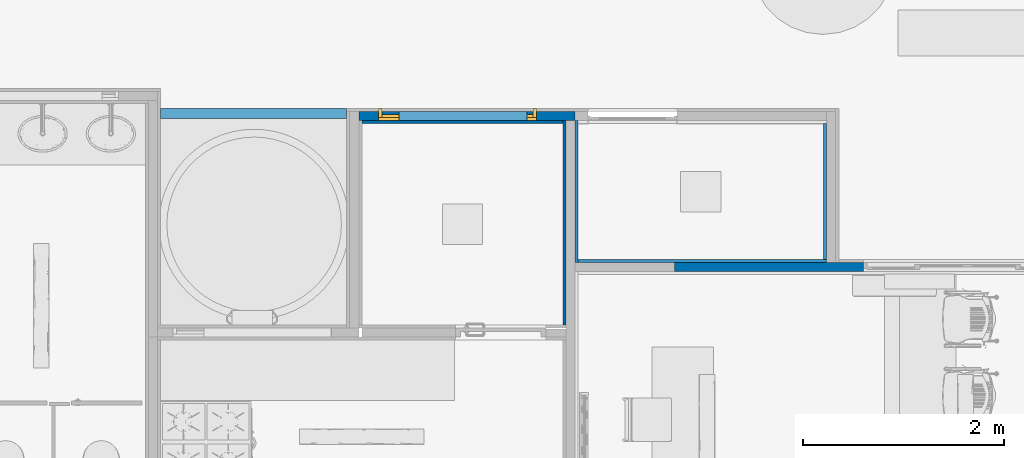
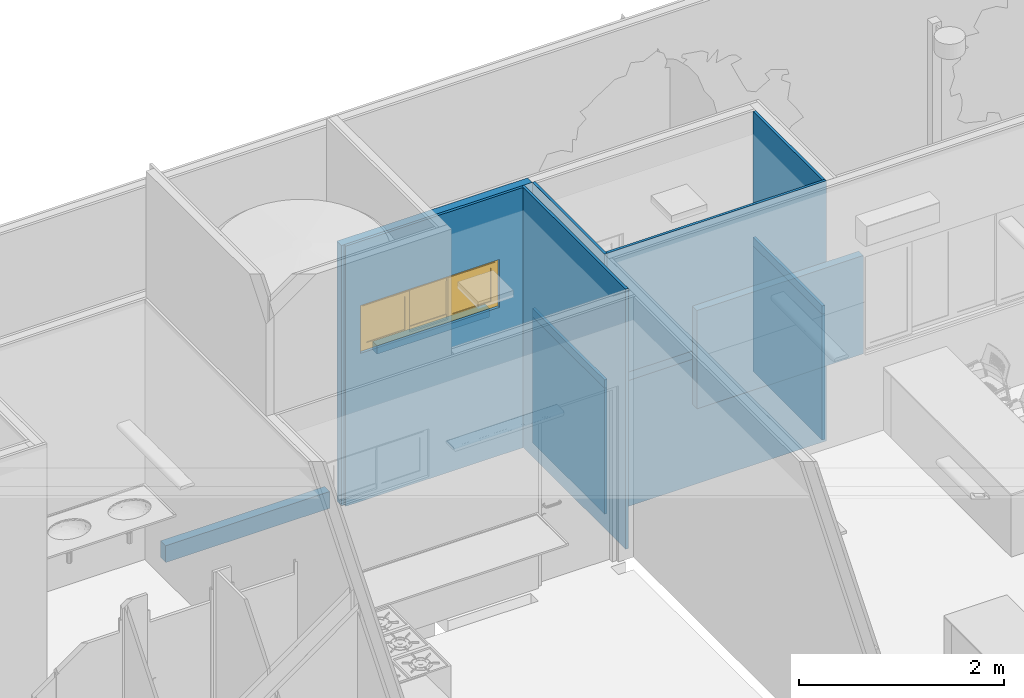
# One storey, part 42 of 155: 15 walls, 1 window, 9 openings.
"""IFC2X3 building model written with IfcOpenShell, lengths in metres."""

from ifc_helpers import new_model, entity, si_unit, converted_unit, derived_unit, direction, frame, frame_2d, origin, origin_2d_with_axis, place, context, subcontext, project, spatial, polyline, rectangle, outline, extrude, clip, bounded_halfspace, source, transform, mapped, material, material_list, layer, layer_set, layer_usage, type_object, type_shapes, element, fill, save


model = new_model("IFC2X3")

# Units and contexts
model_context = context("Model", 3, precision=1e-05, world=origin(), true_north=direction((6.12303176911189e-17, 1.0)))
body_context = subcontext(model_context, "Body", "Model", "MODEL_VIEW")
ifc_project = project(units=[si_unit("LENGTHUNIT", "METRE"), si_unit("AREAUNIT", "SQUARE_METRE"), si_unit("VOLUMEUNIT", "CUBIC_METRE"), converted_unit("PLANEANGLEUNIT", "DEGREE", entity("IfcRatioMeasure", 0.0174532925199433), si_unit("PLANEANGLEUNIT", "RADIAN"), dimensions=[0, 0, 0, 0, 0, 0, 0]), si_unit("MASSUNIT", "GRAM", prefix="KILO"), derived_unit("MASSDENSITYUNIT", [(si_unit("MASSUNIT", "GRAM", prefix="KILO"), 1), (si_unit("LENGTHUNIT", "METRE"), -3)]), si_unit("TIMEUNIT", "SECOND"), si_unit("FREQUENCYUNIT", "HERTZ"), si_unit("THERMODYNAMICTEMPERATUREUNIT", "DEGREE_CELSIUS"), derived_unit("THERMALTRANSMITTANCEUNIT", [(si_unit("MASSUNIT", "GRAM", prefix="KILO"), 1), (si_unit("THERMODYNAMICTEMPERATUREUNIT", "KELVIN"), -1), (si_unit("TIMEUNIT", "SECOND"), -3)]), derived_unit("VOLUMETRICFLOWRATEUNIT", [(si_unit("LENGTHUNIT", "METRE"), 3), (si_unit("TIMEUNIT", "SECOND"), -1)]), si_unit("ELECTRICCURRENTUNIT", "AMPERE"), si_unit("ELECTRICVOLTAGEUNIT", "VOLT"), si_unit("POWERUNIT", "WATT"), si_unit("FORCEUNIT", "NEWTON", prefix="KILO"), si_unit("ILLUMINANCEUNIT", "LUX"), si_unit("LUMINOUSFLUXUNIT", "LUMEN"), si_unit("LUMINOUSINTENSITYUNIT", "CANDELA"), derived_unit("USERDEFINED", [(si_unit("MASSUNIT", "GRAM", prefix="KILO"), -1), (si_unit("LENGTHUNIT", "METRE"), -2), (si_unit("TIMEUNIT", "SECOND"), 3), (si_unit("LUMINOUSFLUXUNIT", "LUMEN"), 1)]), derived_unit("LINEARVELOCITYUNIT", [(si_unit("LENGTHUNIT", "METRE"), 1), (si_unit("TIMEUNIT", "SECOND"), -1)]), si_unit("PRESSUREUNIT", "PASCAL"), derived_unit("USERDEFINED", [(si_unit("LENGTHUNIT", "METRE"), -2), (si_unit("MASSUNIT", "GRAM", prefix="KILO"), 1), (si_unit("TIMEUNIT", "SECOND"), -2)])], contexts=[model_context])

# Site, building, storey
site_placement = place(None, frame((26.9889013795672, -17.5624287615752, 0.0)))
site = spatial("IfcSite", under=ifc_project, at=site_placement, Name="Default", CompositionType="ELEMENT")
building_placement = place(site_placement, origin())
building = spatial("IfcBuilding", under=site, at=building_placement, Name="C. C. L. Monsenhor Antônio Sampaio", CompositionType="ELEMENT")
storey_placement = place(building_placement, frame((0.0, 0.0, 1.19999999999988)))
storey = spatial("IfcBuildingStorey", under=building, at=storey_placement, Name="Nível 1.2", CompositionType="ELEMENT", Elevation=1.19999999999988)

# Wall, openings, window
ifc_material_1 = material(Name="ALVENARIA")
ifc_layer_1 = layer(ifc_material_1, 0.09)
ifc_layer_set_1 = layer_set([ifc_layer_1], Name="Parede básica:ENucleo parede 15cm")
ifc_layer_usage_1 = layer_usage(ifc_layer_set_1, "AXIS2", "POSITIVE", -0.045)
wall_type_1 = type_object("IfcWallType", Name="Parede básica:ENucleo parede 15cm", PredefinedType="STANDARD", material=ifc_layer_set_1)
wall_1_placement = place(storey_placement, frame((1.69944770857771, -8.72806634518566, 0.0)))
wall_1 = element("IfcWallStandardCase", 1, at=wall_1_placement, inside=storey, type_object=wall_type_1, material=ifc_layer_usage_1, Name="Parede básica:ENucleo parede 15cm", ObjectType="Parede básica:ENucleo parede 15cm", context=body_context, shape_type="Clipping", body=[
    clip(extrude(rectangle(XDim=2.14999999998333, YDim=0.089999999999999, at=frame_2d((1.07499999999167, 0.0), x_axis=(-1.0, 0.0))), origin(), (0.0, 0.0, 1.0), 3.10000000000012), bounded_halfspace(frame((2.14999999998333, -0.0450000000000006, 3.10000000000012), z_axis=(-1.0, 0.0, 0.0), x_axis=(0.0, -1.0, 0.0)), True, frame((2.14999999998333, -0.0450000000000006, 3.10000000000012), z_axis=(-1.0, 0.0, 0.0), x_axis=(0.0, -1.0, 0.0)), polyline([(0.0, 0.0), (-0.0900000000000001, 0.0), (-0.0900000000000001, -3.10000000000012), (0.0, -3.10000000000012), (0.0, 0.0)]))),
])
opening_1_placement = place(wall_1_placement, frame((0.195000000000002, -0.0450000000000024, 1.76500000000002)))
opening_1 = element("IfcOpeningElement", 2, at=opening_1_placement, cuts=wall_1, Name="Janela 150x1:150 x 50:1", ObjectType="Opening", context=body_context, shape_type="SweptSolid", body=[
    extrude(rectangle(XDim=0.570000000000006, YDim=1.56999999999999, at=frame_2d((0.285000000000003, 0.784999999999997), x_axis=(1.0, 0.0))), frame((0.0, 0.0, 0.0), z_axis=(0.0, 1.0, 0.0), x_axis=(0.0, 0.0, 1.0)), (0.0, 0.0, 1.0), 0.09),
])
opening_2_placement = place(wall_1_placement, frame((-1.69944770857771, 8.72806634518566, 0.0)))
element("IfcOpeningElement", 3, at=opening_2_placement, cuts=wall_1, Name="Parede básica:ENucleo parede 15cm", ObjectType="Opening", context=body_context, shape_type="SweptSolid", body=[
    extrude(rectangle(XDim=0.47000000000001, YDim=1.26999999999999, at=frame_2d((0.0, 2.77555756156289e-16), x_axis=(1.0, 0.0))), frame((2.7344477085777, -10.2970663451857, 1.90000000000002), z_axis=(0.0, 1.0, 0.0), x_axis=(0.0, 0.0, 1.0)), (0.0, 0.0, 1.0), 3.048),
])
ifc_material_2 = material(Name="VIDRO COMUM LISO VERDE")
ifc_material_3 = material(Name="ALUMÍNIO COM PINTURA ELETROSTÁTICA BRANCA")
ifc_material_list_1 = material_list([ifc_material_2, ifc_material_3])
ifc_material_list_2 = material_list([ifc_material_2, ifc_material_3])
window_style = type_object("IfcWindowStyle", Name="150 x 50", ConstructionType="NOTDEFINED", OperationType="NOTDEFINED", ParameterTakesPrecedence=False, Sizeable=False, material=ifc_material_list_2)
shared_shape = source(origin(), body_context, "Body", "SweptSolid", [
    extrude(rectangle(XDim=0.00599999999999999, YDim=0.43333, at=frame_2d((0.0, -2.77555756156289e-17), x_axis=(1.0, 0.0))), frame((1.00958205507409, 0.00574832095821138, 0.0849999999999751), z_axis=(0.0, 0.0, 1.0), x_axis=(0.0, -1.0, 0.0)), (0.0, 0.0, 1.0), 0.4),
    extrude(outline(polyline([(-0.250000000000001, -0.266665), (0.250000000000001, -0.266665), (0.250000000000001, 0.266665), (-0.250000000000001, 0.266665), (-0.250000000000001, -0.266665)]), holes=[polyline([(-0.200000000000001, -0.216665), (-0.200000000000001, 0.216665), (0.200000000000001, 0.216665), (0.200000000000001, -0.216665), (-0.200000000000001, -0.216665)])]), frame((1.00958205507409, 0.0182483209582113, 0.284999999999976), z_axis=(0.0, -1.0, 0.0), x_axis=(0.0, 0.0, -1.0)), (0.0, 0.0, 1.0), 0.025),
    extrude(rectangle(XDim=0.43333, YDim=0.00599999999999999, at=origin_2d_with_axis()), frame((0.526192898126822, 0.0307483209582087, 0.0849999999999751), z_axis=(0.0, 0.0, 1.0), x_axis=(-1.0, 0.0, 0.0)), (0.0, 0.0, 1.0), 0.4),
    extrude(outline(polyline([(-0.266665, -0.250000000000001), (0.266665, -0.250000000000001), (0.266665, 0.250000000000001), (-0.266665, 0.250000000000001), (-0.266665, -0.250000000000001)]), holes=[polyline([(-0.216665, -0.200000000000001), (-0.216665, 0.200000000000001), (0.216665, 0.200000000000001), (0.216665, -0.200000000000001), (-0.216665, -0.200000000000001)])]), frame((0.526192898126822, 0.0432483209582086, 0.284999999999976), z_axis=(0.0, -1.0, 0.0), x_axis=(-1.0, 0.0, 0.0)), (0.0, 0.0, 1.0), 0.025),
    extrude(rectangle(XDim=0.43333, YDim=0.00599999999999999, at=frame_2d((-2.77555756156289e-17, 0.0), x_axis=(1.0, 0.0))), frame((0.0428037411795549, 0.00574832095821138, 0.0849999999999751), z_axis=(0.0, 0.0, 1.0), x_axis=(-1.0, 0.0, 0.0)), (0.0, 0.0, 1.0), 0.4),
    extrude(outline(polyline([(-0.266665, -0.250000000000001), (0.266665, -0.250000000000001), (0.266665, 0.250000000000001), (-0.266665, 0.250000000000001), (-0.266665, -0.250000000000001)]), holes=[polyline([(-0.216665, -0.200000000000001), (-0.216665, 0.200000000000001), (0.216665, 0.200000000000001), (0.216665, -0.200000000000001), (-0.216665, -0.200000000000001)])]), frame((0.0428037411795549, 0.0182483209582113, 0.284999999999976), z_axis=(0.0, -1.0, 0.0), x_axis=(-1.0, 0.0, 0.0)), (0.0, 0.0, 1.0), 0.025),
    extrude(rectangle(XDim=0.0349999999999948, YDim=0.12, at=origin_2d_with_axis()), frame((-0.241307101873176, 0.0582483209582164, 0.0349999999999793), z_axis=(0.0, 0.0, 1.0), x_axis=(-1.0, 0.0, 0.0)), (0.0, 0.0, 1.0), 0.500000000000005),
    extrude(rectangle(XDim=0.0349999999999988, YDim=0.12, at=origin_2d_with_axis()), frame((1.29369289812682, 0.0582483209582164, 0.0349999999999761), z_axis=(0.0, 0.0, 1.0), x_axis=(-1.0, 0.0, 0.0)), (0.0, 0.0, 1.0), 0.500000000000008),
    extrude(rectangle(XDim=1.57, YDim=0.06, at=origin_2d_with_axis()), frame((0.526192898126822, 0.0282483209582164, 0.0), z_axis=(0.0, 0.0, 1.0), x_axis=(-1.0, 0.0, 0.0)), (0.0, 0.0, 1.0), 0.0349999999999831),
    extrude(rectangle(XDim=1.56999999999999, YDim=0.03, at=origin_2d_with_axis()), frame((0.526192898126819, 0.0132483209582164, 0.534999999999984), z_axis=(0.0, 0.0, 1.0), x_axis=(-1.0, 0.0, 0.0)), (0.0, 0.0, 1.0), 0.0350000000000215),
])
type_shapes(window_style, [shared_shape])
window_placement = place(opening_1_placement, frame((0.258807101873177, 0.00175167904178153, 0.0)))
window = element("IfcWindow", 4, at=window_placement, inside=storey, type_object=window_style, material=ifc_material_list_1, Name="Janela 150x1:150 x 50", ObjectType="150 x 50", OverallHeight=0.570000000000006, OverallWidth=1.56999999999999, context=body_context, shape_type="MappedRepresentation", body=[
    mapped(shared_shape, transform((0.0, 0.0, 0.0), scale=1.0)),
])
fill(opening_1, window)

# Walls
ifc_layer_usage_2 = layer_usage(ifc_layer_set_1, "AXIS2", "POSITIVE", -0.045)
wall_2_placement = place(storey_placement, frame((4.83944770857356, -10.2280663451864, 0.965000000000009)))
element("IfcWallStandardCase", 5, at=wall_2_placement, inside=storey, type_object=wall_type_1, material=ifc_layer_usage_2, Name="Parede básica:ENucleo parede 15cm", ObjectType="Parede básica:ENucleo parede 15cm", context=body_context, shape_type="SweptSolid", body=[
    extrude(rectangle(XDim=1.87516826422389, YDim=0.089999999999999, at=origin_2d_with_axis()), frame((0.937584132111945, 0.0, 0.0)), (0.0, 0.0, 1.0), 1.17000000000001),
])
ifc_layer_usage_3 = layer_usage(ifc_layer_set_1, "AXIS2", "POSITIVE", -0.045)
wall_3_placement = place(storey_placement, frame((2.09944770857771, -8.72806634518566, 1.66500000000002)))
element("IfcWallStandardCase", 6, at=wall_3_placement, inside=storey, type_object=wall_type_1, material=ifc_layer_usage_3, Name="Parede básica:ENucleo parede 15cm", ObjectType="Parede básica:ENucleo parede 15cm", context=body_context, shape_type="SweptSolid", body=[
    extrude(rectangle(XDim=1.26999999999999, YDim=0.0900000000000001, at=frame_2d((1.11022302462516e-16, 5.41233724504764e-16), x_axis=(1.0, 0.0))), frame((0.634999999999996, 0.0, 0.0)), (0.0, 0.0, 1.0), 0.1),
])
ifc_material_4 = material(Name=".CERÂMICA 10x10 BRANCA")
ifc_layer_2 = layer(ifc_material_4, 0.0035)
ifc_material_5 = material(Name="Argamassa Colante")
ifc_layer_3 = layer(ifc_material_5, 0.02)
ifc_material_6 = material(Name="4")
ifc_layer_4 = layer(ifc_material_6, 0.0015)
ifc_material_7 = material(Name="3")
ifc_layer_5 = layer(ifc_material_7, 0.005)
ifc_layer_set_2 = layer_set([ifc_layer_2, ifc_layer_3, ifc_layer_4, ifc_layer_5], Name="Parede básica:ECeramica branca 10x10cm")
ifc_layer_usage_4 = layer_usage(ifc_layer_set_2, "AXIS2", "NEGATIVE", 0.015)
wall_type_2 = type_object("IfcWallType", Name="Parede básica:ECeramica branca 10x10cm", PredefinedType="STANDARD", material=ifc_layer_set_2)
wall_4_placement = place(storey_placement, frame((3.86461597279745, -10.1830663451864, 0.0), z_axis=(0.0, 0.0, 1.0), x_axis=(0.0, 1.0, 0.0)))
element("IfcWallStandardCase", 7, at=wall_4_placement, inside=storey, type_object=wall_type_2, material=ifc_layer_usage_4, Name="Parede básica:ECeramica branca 10x10cm", ObjectType="Parede básica:ECeramica branca 10x10cm", context=body_context, shape_type="SweptSolid", body=[
    extrude(rectangle(XDim=1.41000000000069, YDim=0.0299999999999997, at=frame_2d((0.705000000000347, -6.41847686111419e-17), x_axis=(-1.0, 0.0))), origin(), (0.0, 0.0, 1.0), 1.5),
])
ifc_layer_usage_5 = layer_usage(ifc_layer_set_2, "AXIS2", "NEGATIVE", 0.015)
wall_5_placement = place(storey_placement, frame((3.86461597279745, -10.1830663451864, 1.6), z_axis=(0.0, 0.0, 1.0), x_axis=(0.0, 1.0, 0.0)))
element("IfcWallStandardCase", 8, at=wall_5_placement, inside=storey, type_object=wall_type_2, material=ifc_layer_usage_5, Name="Parede básica:ECeramica branca 10x10cm", ObjectType="Parede básica:ECeramica branca 10x10cm", context=body_context, shape_type="SweptSolid", body=[
    extrude(rectangle(XDim=1.41000000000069, YDim=0.0299999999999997, at=frame_2d((0.705000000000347, -6.41847686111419e-17), x_axis=(-1.0, 0.0))), origin(), (0.0, 0.0, 1.0), 1.50000000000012),
])

# Wall, openings
ifc_layer_usage_6 = layer_usage(ifc_layer_set_2, "AXIS2", "NEGATIVE", 0.015)
wall_6_placement = place(storey_placement, frame((6.34944770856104, -10.1680663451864, 0.0), z_axis=(0.0, 0.0, 1.0), x_axis=(-1.0, 0.0, 0.0)))
wall_6 = element("IfcWallStandardCase", 9, at=wall_6_placement, inside=storey, type_object=wall_type_2, material=ifc_layer_usage_6, Name="Parede básica:ECeramica branca 10x10cm", ObjectType="Parede básica:ECeramica branca 10x10cm", context=body_context, shape_type="SweptSolid", body=[
    extrude(rectangle(XDim=2.46983173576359, YDim=0.0300000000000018, at=frame_2d((1.23491586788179, -1.71737624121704e-16), x_axis=(-1.0, 0.0))), origin(), (0.0, 0.0, 1.0), 1.5),
])
opening_3_placement = place(wall_6_placement, origin())
element("IfcOpeningElement", 10, at=opening_3_placement, cuts=wall_6, Name="Parede básica:ECeramica branca 10x10cm", ObjectType="Opening", context=body_context, shape_type="SweptSolid", body=[
    extrude(rectangle(XDim=1.17, YDim=2.07, at=frame_2d((0.0, 5.55111512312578e-16), x_axis=(1.0, 0.0))), frame((-1.40016826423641, -1.50899999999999, 1.55000000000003), z_axis=(0.0, 1.0, 0.0), x_axis=(0.0, 0.0, 1.0)), (0.0, 0.0, 1.0), 3.048),
])
opening_4_placement = place(wall_6_placement, origin())
element("IfcOpeningElement", 11, at=opening_4_placement, cuts=wall_6, Name="Parede básica:ECeramica branca 10x10cm", ObjectType="Opening", context=body_context, shape_type="SweptSolid", body=[
    extrude(rectangle(XDim=1.17, YDim=2.07, at=frame_2d((-5.55111512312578e-16, 0.0), x_axis=(0.0, 1.0))), frame((-3.89000000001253, -1.41899999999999, 1.55000000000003), z_axis=(0.0, 1.0, 0.0), x_axis=(-1.0, 0.0, 0.0)), (0.0, 0.0, 1.0), 3.048),
])

ifc_layer_usage_7 = layer_usage(ifc_layer_set_2, "AXIS2", "NEGATIVE", 0.015)
wall_7_placement = place(storey_placement, frame((6.34944770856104, -10.1680663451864, 1.6), z_axis=(0.0, 0.0, 1.0), x_axis=(-1.0, 0.0, 0.0)))
wall_7 = element("IfcWallStandardCase", 12, at=wall_7_placement, inside=storey, type_object=wall_type_2, material=ifc_layer_usage_7, Name="Parede básica:ECeramica branca 10x10cm", ObjectType="Parede básica:ECeramica branca 10x10cm", context=body_context, shape_type="SweptSolid", body=[
    extrude(rectangle(XDim=2.46983173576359, YDim=0.0300000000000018, at=frame_2d((1.23491586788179, -1.71737624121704e-16), x_axis=(-1.0, 0.0))), origin(), (0.0, 0.0, 1.0), 1.50000000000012),
])
opening_5_placement = place(wall_7_placement, origin())
element("IfcOpeningElement", 13, at=opening_5_placement, cuts=wall_7, Name="Parede básica:ECeramica branca 10x10cm", ObjectType="Opening", context=body_context, shape_type="SweptSolid", body=[
    extrude(rectangle(XDim=1.17, YDim=2.07, at=frame_2d((0.0, 5.55111512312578e-16), x_axis=(1.0, 0.0))), frame((-1.40016826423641, -1.50899999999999, -0.049999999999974), z_axis=(0.0, 1.0, 0.0), x_axis=(0.0, 0.0, 1.0)), (0.0, 0.0, 1.0), 3.048),
])
opening_6_placement = place(wall_7_placement, origin())
element("IfcOpeningElement", 14, at=opening_6_placement, cuts=wall_7, Name="Parede básica:ECeramica branca 10x10cm", ObjectType="Opening", context=body_context, shape_type="SweptSolid", body=[
    extrude(rectangle(XDim=1.17, YDim=2.07, at=frame_2d((-5.55111512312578e-16, 0.0), x_axis=(0.0, 1.0))), frame((-3.89000000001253, -1.41899999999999, -0.049999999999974), z_axis=(0.0, 1.0, 0.0), x_axis=(-1.0, 0.0, 0.0)), (0.0, 0.0, 1.0), 3.048),
])

# Walls
ifc_layer_usage_8 = layer_usage(ifc_layer_set_2, "AXIS2", "POSITIVE", -0.015)
wall_8_placement = place(storey_placement, frame((6.33444770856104, -8.80306634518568, 0.0), z_axis=(0.0, 0.0, 1.0), x_axis=(0.0, -1.0, 0.0)))
element("IfcWallStandardCase", 15, at=wall_8_placement, inside=storey, type_object=wall_type_2, material=ifc_layer_usage_8, Name="Parede básica:ECeramica branca 10x10cm", ObjectType="Parede básica:ECeramica branca 10x10cm", context=body_context, shape_type="SweptSolid", body=[
    extrude(rectangle(XDim=1.35000000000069, YDim=0.0299999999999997, at=frame_2d((0.675000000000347, 0.0), x_axis=(-1.0, 0.0))), origin(), (0.0, 0.0, 1.0), 1.5),
])
ifc_layer_usage_9 = layer_usage(ifc_layer_set_2, "AXIS2", "POSITIVE", -0.015)
wall_9_placement = place(storey_placement, frame((6.33444770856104, -8.80306634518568, 1.6), z_axis=(0.0, 0.0, 1.0), x_axis=(0.0, -1.0, 0.0)))
element("IfcWallStandardCase", 16, at=wall_9_placement, inside=storey, type_object=wall_type_2, material=ifc_layer_usage_9, Name="Parede básica:ECeramica branca 10x10cm", ObjectType="Parede básica:ECeramica branca 10x10cm", context=body_context, shape_type="SweptSolid", body=[
    extrude(rectangle(XDim=1.35000000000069, YDim=0.0299999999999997, at=frame_2d((0.675000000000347, 0.0), x_axis=(-1.0, 0.0))), origin(), (0.0, 0.0, 1.0), 1.50000000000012),
])
ifc_material_8 = material(Name="Acabamento Branco")
ifc_layer_6 = layer(ifc_material_8, 0.0035)
ifc_material_9 = material(Name="Massa corrida")
ifc_layer_7 = layer(ifc_material_9, 0.02)
ifc_layer_8 = layer(ifc_material_6, 0.0015)
ifc_layer_9 = layer(ifc_material_7, 0.005)
ifc_layer_set_3 = layer_set([ifc_layer_6, ifc_layer_7, ifc_layer_8, ifc_layer_9], Name="Parede básica:EPintura Branca")
ifc_layer_usage_10 = layer_usage(ifc_layer_set_3, "AXIS2", "NEGATIVE", 0.015)
wall_type_3 = type_object("IfcWallType", Name="Parede básica:EPintura Branca", PredefinedType="STANDARD", material=ifc_layer_set_3)
wall_10_placement = place(storey_placement, frame((3.74461597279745, -10.8030663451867, 0.0), z_axis=(0.0, 0.0, 1.0), x_axis=(0.0, 1.0, 0.0)))
element("IfcWallStandardCase", 17, at=wall_10_placement, inside=storey, type_object=wall_type_3, material=ifc_layer_usage_10, Name="Parede básica:EPintura Branca", ObjectType="Parede básica:EPintura Branca", context=body_context, shape_type="SweptSolid", body=[
    extrude(rectangle(XDim=2.03000000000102, YDim=0.0299999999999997, at=frame_2d((1.01500000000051, 0.0), x_axis=(-1.0, 0.0))), origin(), (0.0, 0.0, 1.0), 3.10000000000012),
])

# Wall, opening
ifc_layer_usage_11 = layer_usage(ifc_layer_set_3, "AXIS2", "NEGATIVE", 0.015)
wall_11_placement = place(storey_placement, frame((3.72961597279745, -8.78806634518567, 0.0), z_axis=(0.0, 0.0, 1.0), x_axis=(-1.0, 0.0, 0.0)))
wall_11 = element("IfcWallStandardCase", 18, at=wall_11_placement, inside=storey, type_object=wall_type_3, material=ifc_layer_usage_11, Name="Parede básica:EPintura Branca", ObjectType="Parede básica:EPintura Branca", context=body_context, shape_type="SweptSolid", body=[
    extrude(rectangle(XDim=2.00016826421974, YDim=0.0299999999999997, at=frame_2d((1.00008413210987, 0.0), x_axis=(-1.0, 0.0))), origin(), (0.0, 0.0, 1.0), 3.10000000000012),
])
opening_7_placement = place(wall_11_placement, origin())
element("IfcOpeningElement", 19, at=opening_7_placement, cuts=wall_11, Name="Parede básica:EPintura Branca", ObjectType="Opening", context=body_context, shape_type="SweptSolid", body=[
    extrude(rectangle(XDim=0.570000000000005, YDim=1.56999999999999, at=frame_2d((5.27355936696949e-16, 1.11022302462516e-16), x_axis=(1.0, 0.0))), frame((1.05016826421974, -1.539, 2.05000000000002), z_axis=(0.0, 1.0, 0.0), x_axis=(0.0, 0.0, 1.0)), (0.0, 0.0, 1.0), 3.048),
])

# Walls
ifc_material_10 = material(Name=".Pintura branca")
ifc_layer_10 = layer(ifc_material_10, 0.005)
ifc_material_11 = material(Name=".Alvenaria")
ifc_layer_11 = layer(ifc_material_11, 0.09)
ifc_layer_12 = layer(ifc_material_10, 0.005)
ifc_layer_set_4 = layer_set([ifc_layer_10, ifc_layer_11, ifc_layer_12], Name="Parede básica:10cm - Canteiros")
ifc_layer_usage_12 = layer_usage(ifc_layer_set_4, "AXIS2", "POSITIVE", -0.05)
wall_type_4 = type_object("IfcWallType", Name="Parede básica:10cm - Canteiros", PredefinedType="STANDARD", material=ifc_layer_set_4)
wall_12_placement = place(storey_placement, frame((1.57944770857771, -8.70306634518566, 0.0), z_axis=(0.0, 0.0, 1.0), x_axis=(-1.0, 0.0, 0.0)))
element("IfcWallStandardCase", 20, at=wall_12_placement, inside=storey, type_object=wall_type_4, material=ifc_layer_usage_12, Name="Parede básica:10cm - Canteiros", ObjectType="Parede básica:10cm - Canteiros", context=body_context, shape_type="SweptSolid", body=[
    extrude(rectangle(XDim=1.85000000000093, YDim=0.0999999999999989, at=frame_2d((0.925000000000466, 0.0), x_axis=(-1.0, 0.0))), origin(), (0.0, 0.0, 1.0), 0.2),
])
ifc_material_12 = material(Name=".CERÂMICA 10x10 VERDE")
ifc_layer_13 = layer(ifc_material_12, 0.0035)
ifc_layer_14 = layer(ifc_material_5, 0.02)
ifc_layer_15 = layer(ifc_material_6, 0.0015)
ifc_layer_16 = layer(ifc_material_7, 0.005)
ifc_layer_set_5 = layer_set([ifc_layer_13, ifc_layer_14, ifc_layer_15, ifc_layer_16], Name="Parede básica:ECeramica Verde 10x10cm")
ifc_layer_usage_13 = layer_usage(ifc_layer_set_5, "AXIS2", "NEGATIVE", 0.015)
wall_type_5 = type_object("IfcWallType", Name="Parede básica:ECeramica Verde 10x10cm", PredefinedType="STANDARD", material=ifc_layer_set_5)
wall_13_placement = place(storey_placement, frame((3.86461597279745, -10.1830663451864, 1.5), z_axis=(0.0, 0.0, 1.0), x_axis=(0.0, 1.0, 0.0)))
element("IfcWallStandardCase", 21, at=wall_13_placement, inside=storey, type_object=wall_type_5, material=ifc_layer_usage_13, Name="Parede básica:ECeramica Verde 10x10cm", ObjectType="Parede básica:ECeramica Verde 10x10cm", context=body_context, shape_type="SweptSolid", body=[
    extrude(rectangle(XDim=1.41000000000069, YDim=0.0299999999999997, at=frame_2d((0.705000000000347, -6.41847686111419e-17), x_axis=(-1.0, 0.0))), origin(), (0.0, 0.0, 1.0), 0.1),
])

# Wall, openings
ifc_layer_usage_14 = layer_usage(ifc_layer_set_5, "AXIS2", "NEGATIVE", 0.015)
wall_14_placement = place(storey_placement, frame((6.34944770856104, -10.1680663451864, 1.5), z_axis=(0.0, 0.0, 1.0), x_axis=(-1.0, 0.0, 0.0)))
wall_14 = element("IfcWallStandardCase", 22, at=wall_14_placement, inside=storey, type_object=wall_type_5, material=ifc_layer_usage_14, Name="Parede básica:ECeramica Verde 10x10cm", ObjectType="Parede básica:ECeramica Verde 10x10cm", context=body_context, shape_type="SweptSolid", body=[
    extrude(rectangle(XDim=2.46983173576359, YDim=0.0300000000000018, at=frame_2d((1.23491586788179, -1.71737624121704e-16), x_axis=(-1.0, 0.0))), origin(), (0.0, 0.0, 1.0), 0.1),
])
opening_8_placement = place(wall_14_placement, origin())
element("IfcOpeningElement", 23, at=opening_8_placement, cuts=wall_14, Name="Parede básica:ECeramica Verde 10x10cm", ObjectType="Opening", context=body_context, shape_type="SweptSolid", body=[
    extrude(rectangle(XDim=1.17, YDim=2.07, at=frame_2d((0.0, 5.55111512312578e-16), x_axis=(1.0, 0.0))), frame((-1.40016826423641, -1.50899999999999, 0.050000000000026), z_axis=(0.0, 1.0, 0.0), x_axis=(0.0, 0.0, 1.0)), (0.0, 0.0, 1.0), 3.048),
])
opening_9_placement = place(wall_14_placement, origin())
element("IfcOpeningElement", 24, at=opening_9_placement, cuts=wall_14, Name="Parede básica:ECeramica Verde 10x10cm", ObjectType="Opening", context=body_context, shape_type="SweptSolid", body=[
    extrude(rectangle(XDim=1.17, YDim=2.07, at=frame_2d((-5.55111512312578e-16, 0.0), x_axis=(0.0, 1.0))), frame((-3.89000000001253, -1.41899999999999, 0.050000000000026), z_axis=(0.0, 1.0, 0.0), x_axis=(-1.0, 0.0, 0.0)), (0.0, 0.0, 1.0), 3.048),
])

# Wall
ifc_layer_usage_15 = layer_usage(ifc_layer_set_5, "AXIS2", "POSITIVE", -0.015)
wall_15_placement = place(storey_placement, frame((6.33444770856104, -8.80306634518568, 1.5), z_axis=(0.0, 0.0, 1.0), x_axis=(0.0, -1.0, 0.0)))
element("IfcWallStandardCase", 25, at=wall_15_placement, inside=storey, type_object=wall_type_5, material=ifc_layer_usage_15, Name="Parede básica:ECeramica Verde 10x10cm", ObjectType="Parede básica:ECeramica Verde 10x10cm", context=body_context, shape_type="SweptSolid", body=[
    extrude(rectangle(XDim=1.35000000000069, YDim=0.0299999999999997, at=frame_2d((0.675000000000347, 0.0), x_axis=(-1.0, 0.0))), origin(), (0.0, 0.0, 1.0), 0.1),
])

save(model, "model.ifc")
